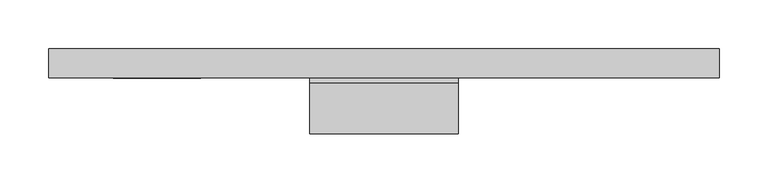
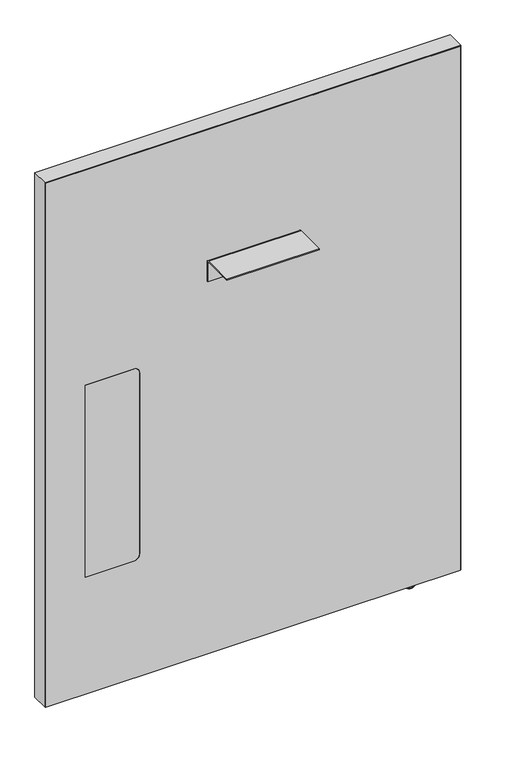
"""IFC4 building model written with IfcOpenShell, lengths in millimetres: furniture geometry, Steelcase - Answer Solution - Boundary Screen - Straight - Single Sided : 36H x 27W."""

from ifc_helpers import new_model, si_unit, point, frame, frame_2d, origin, place, context, project, spatial, polyline, circle_curve, ellipse_curve, trimmed, segment, composite_curve, outline, extrude, source, transform, mapped, element, save
from ifc_brep_helpers import plane_surface, cylinder_surface, revolved_surface, advanced_brep


def furniture_ad32c061(model_context):
    return source(origin(), model_context, "Body", "SolidModel", [
        extrude(outline(composite_curve([segment(polyline([(-86.8398151, 696.4680019), (-86.8398151, 698.5), (-34.9450855, 698.5)]), True, "CONTINUOUS"), segment(trimmed(circle_curve(frame_2d((-34.9450855, 693.2447477)), 5.2552523), [point((-34.9450855, 698.5))], [point((-29.6898332, 693.2447477))], False, "CARTESIAN"), True, "CONTINUOUS"), segment(polyline([(-29.6898332, 693.2447477), (-29.6898332, 660.4), (-31.7218162, 660.4), (-31.7218162, 693.0058743)]), True, "CONTINUOUS"), segment(trimmed(circle_curve(frame_2d((-35.1839438, 693.0058743)), 3.4621276), [point((-31.7218162, 693.0058743))], [point((-35.1839438, 696.4680019))], True, "CARTESIAN"), True, "CONTINUOUS"), segment(polyline([(-35.1839438, 696.4680019), (-86.8398151, 696.4680019)]), True, "CONTINUOUS")], self_intersect=False)), frame((-379.7808593, 0.0, 0.0), z_axis=(1.0, 0.0, 0.0), x_axis=(0.0, 1.0, 0.0)), (0.0, 0.0, 1.0), 152.4000969),
        advanced_brep(
        [(-37.8713512, -23.7588726, 9.9059849), (-37.8713512, -5.9309607, 9.9059849), (-37.8713512, -14.8449166, 9.9059849), (-37.8713512, -23.7588726, 2.9673238), (-37.8713512, -5.9309607, 2.9673238), (-37.8713512, -22.7915354, 2.9673238), (-37.8713512, -6.8982978, 2.9673238), (-37.8713512, -22.7915354, 1.6569081), (-37.8713512, -6.8982978, 1.6569081), (-37.8713512, -21.1346274, 0.0), (-37.8713512, -8.5552059, 0.0), (-37.8713512, -14.8449166, 0.0)],
        [
            (0, 1, circle_curve(frame((-37.8713512, -14.8449166, 9.9059849), z_axis=(0.0, 0.0, 1.0), x_axis=(0.0, 1.0, 0.0)), 8.913956)),
            (1, 2),
            (2, 0),
            (1, 0, circle_curve(frame((-37.8713512, -14.8449166, 9.9059849), z_axis=(0.0, 0.0, 1.0), x_axis=(0.0, 1.0, 0.0)), 8.913956)),
            (3, 4, circle_curve(frame((-37.8713512, -14.8449166, 2.9673238), z_axis=(0.0, 0.0, 1.0), x_axis=(0.0, 1.0, 0.0)), 8.913956)),
            (4, 1),
            (0, 3),
            (4, 3, circle_curve(frame((-37.8713512, -14.8449166, 2.9673238), z_axis=(0.0, 0.0, 1.0), x_axis=(0.0, 1.0, 0.0)), 8.913956)),
            (5, 6, circle_curve(frame((-37.8713512, -14.8449166, 2.9673238), z_axis=(0.0, 0.0, 1.0), x_axis=(0.0, 1.0, 0.0)), 7.9466188)),
            (6, 4),
            (3, 5),
            (6, 5, circle_curve(frame((-37.8713512, -14.8449166, 2.9673238), z_axis=(0.0, 0.0, 1.0), x_axis=(0.0, 1.0, 0.0)), 7.9466188)),
            (7, 8, circle_curve(frame((-37.8713512, -14.8449166, 1.6569081), z_axis=(0.0, 0.0, 1.0), x_axis=(0.0, 1.0, 0.0)), 7.9466188)),
            (8, 6),
            (5, 7),
            (8, 7, circle_curve(frame((-37.8713512, -14.8449166, 1.6569081), z_axis=(0.0, 0.0, 1.0), x_axis=(0.0, 1.0, 0.0)), 7.9466188)),
            (9, 10, circle_curve(frame((-37.8713512, -14.8449166, 0.0), z_axis=(0.0, 0.0, 1.0), x_axis=(0.0, 1.0, 0.0)), 6.2897107)),
            (10, 8, circle_curve(frame((-37.8713512, -8.5552059, 1.6569081), z_axis=(1.0, 0.0, 0.0), x_axis=(0.0, 1.0, 0.0)), 1.6569081)),
            (7, 9, circle_curve(frame((-37.8713512, -21.1346274, 1.6569081), z_axis=(1.0, 0.0, 0.0), x_axis=(0.0, -1.0, 0.0)), 1.6569081)),
            (10, 9, circle_curve(frame((-37.8713512, -14.8449166, 0.0), z_axis=(0.0, 0.0, 1.0), x_axis=(0.0, 1.0, 0.0)), 6.2897107)),
            (11, 10),
            (9, 11),
        ],
        [
            plane_surface(frame((-37.8713512, -14.8449166, 9.9059849), z_axis=(0.0, 0.0, 1.0), x_axis=(0.0, 1.0, 0.0))),
            cylinder_surface(frame((-37.8713512, -14.8449166, 9.9059849), z_axis=(0.0, 0.0, -1.0), x_axis=(0.0, 1.0, 0.0)), 8.913956),
            plane_surface(frame((-37.8713512, -14.8449166, 2.9673238), z_axis=(0.0, 0.0, -1.0), x_axis=(0.0, 1.0, 0.0))),
            cylinder_surface(frame((-37.8713512, -14.8449166, 9.9059849), z_axis=(0.0, 0.0, -1.0), x_axis=(0.0, 1.0, 0.0)), 7.9466188),
            revolved_surface(trimmed(ellipse_curve(frame((-37.8713512, -8.5552059, 1.6569081), z_axis=(-1.0, 0.0, 0.0), x_axis=(0.0, 1.0, 0.0)), 1.6569081, 1.6569081), [point((-37.8713512, -6.8982978, 1.6569081))], [point((-37.8713512, -8.5552059, 0.0))], True, "CARTESIAN"), (-37.8713512, -14.8449166, 9.9059849), (0.0, 0.0, -1.0)),
            plane_surface(frame((-37.8713512, -14.8449166, 0.0), z_axis=(0.0, 0.0, -1.0), x_axis=(0.0, 1.0, 0.0))),
        ],
        [
            (0, [[1, 2, 3]]),
            (0, [[4, -3, -2]]),
            (1, [[5, 6, -1, 7]]),
            (1, [[8, -7, -4, -6]]),
            (2, [[9, 10, -5, 11]]),
            (2, [[12, -11, -8, -10]]),
            (3, [[13, 14, -9, 15]]),
            (3, [[16, -15, -12, -14]]),
            (4, [[17, 18, -13, 19]]),
            (4, [[20, -19, -16, -18]]),
            (5, [[21, -17, 22]]),
            (5, [[-22, -20, -21]]),
        ],
    ),
        advanced_brep(
        [(38.2780168, 0.0, 924.342118), (38.2780168, 0.0, 9.9059849), (-645.4902221, 0.0, 9.9059849), (-645.4902221, 0.0, 924.342118), (38.2780168, -29.6898332, 924.342118), (-645.4902221, -29.6898332, 924.342118), (-645.4902221, -29.6898332, 9.9059849), (38.2780168, -29.6898332, 9.9059849), (-501.1463873, -29.6898332, 549.6162029), (-490.9863873, -29.6898332, 539.4562029), (-490.9863873, -29.6898332, 223.9362137), (-501.1463873, -29.6898332, 213.7762137), (-580.800285, -29.6898332, 213.7762137), (-580.800285, -29.6898332, 549.6162029), (-580.800285, -29.0550397, 549.6162029), (-501.1463873, -29.0550397, 549.6162029), (-580.800285, -29.0550397, 213.7762137), (-501.1463873, -29.0550397, 213.7762137), (-490.9863873, -29.0550397, 223.9362137), (-490.9863873, -29.0550397, 539.4562029)],
        [
            (0, 1),
            (1, 2),
            (2, 3),
            (3, 0),
            (4, 5),
            (5, 6),
            (6, 7),
            (7, 4),
            (8, 9, circle_curve(frame((-501.1463873, -29.6898332, 539.4562029), z_axis=(0.0, 1.0, 0.0), x_axis=(0.0, 0.0, 1.0)), 10.16)),
            (9, 10),
            (10, 11, circle_curve(frame((-501.1463873, -29.6898332, 223.9362137), z_axis=(0.0, 1.0, 0.0), x_axis=(0.0, 0.0, 1.0)), 10.16)),
            (11, 12),
            (12, 13),
            (13, 8),
            (0, 4),
            (7, 1),
            (6, 2),
            (5, 3),
            (13, 14),
            (14, 15),
            (15, 8),
            (12, 16),
            (16, 14),
            (11, 17),
            (17, 16),
            (10, 18),
            (18, 17, circle_curve(frame((-501.1463873, -29.0550397, 223.9362137), z_axis=(0.0, 1.0, 0.0), x_axis=(0.0, 0.0, 1.0)), 10.16)),
            (9, 19),
            (19, 18),
            (15, 19, circle_curve(frame((-501.1463873, -29.0550397, 539.4562029), z_axis=(0.0, 1.0, 0.0), x_axis=(0.0, 0.0, 1.0)), 10.16)),
        ],
        [
            plane_surface(frame((38.2780168, 0.0, 924.342118), z_axis=(0.0, 1.0, 0.0), x_axis=(0.0, 0.0, -1.0))),
            plane_surface(frame((38.2780168, -29.6898332, 924.342118), z_axis=(0.0, -1.0, 0.0), x_axis=(0.0, 0.0, 1.0))),
            plane_surface(frame((38.2780168, 0.0, 924.342118), z_axis=(1.0, 0.0, 0.0), x_axis=(0.0, -1.0, 0.0))),
            plane_surface(frame((38.2780168, 0.0, 9.9059849), z_axis=(0.0, 0.0, -1.0), x_axis=(0.0, -1.0, 0.0))),
            plane_surface(frame((-645.4902221, 0.0, 9.9059849), z_axis=(-1.0, 0.0, 0.0), x_axis=(0.0, -1.0, 0.0))),
            plane_surface(frame((-645.4902221, 0.0, 924.342118), z_axis=(0.0, 0.0, 1.0), x_axis=(0.0, -1.0, 0.0))),
            plane_surface(frame((-501.1463873, 0.0, 549.6162029), z_axis=(0.0, 0.0, -1.0), x_axis=(0.0, -1.0, 0.0))),
            plane_surface(frame((-580.800285, 0.0, 549.6162029), z_axis=(1.0, 0.0, 0.0), x_axis=(0.0, -1.0, 0.0))),
            plane_surface(frame((-580.800285, 0.0, 213.7762137), z_axis=(0.0, 0.0, 1.0), x_axis=(0.0, -1.0, 0.0))),
            revolved_surface(polyline([(-501.1463873, -29.6898332, 234.0962137), (-501.1463873, -29.0550397, 234.0962137)]), (-501.1463873, -29.6898332, 223.9362137), (0.0, -1.0, 0.0)),
            plane_surface(frame((-490.9863873, 0.0, 223.9362137), z_axis=(-1.0, 0.0, 0.0), x_axis=(0.0, -1.0, 0.0))),
            revolved_surface(polyline([(-501.1463873, -29.6898332, 549.6162029), (-501.1463873, -29.0550397, 549.6162029)]), (-501.1463873, -29.6898332, 539.4562029), (0.0, -1.0, 0.0)),
            plane_surface(frame((-490.9863873, -29.0550397, 629.172953), z_axis=(0.0, -1.0, 0.0), x_axis=(0.0, 0.0, 1.0))),
        ],
        [
            (0, [[1, 2, 3, 4]]),
            (1, [[5, 6, 7, 8], [9, 10, 11, 12, 13, 14]]),
            (2, [[-1, 15, -8, 16]]),
            (3, [[-2, -16, -7, 17]]),
            (4, [[-3, -17, -6, 18]]),
            (5, [[-4, -18, -5, -15]]),
            (6, [[-14, 19, 20, 21]]),
            (7, [[-13, 22, 23, -19]]),
            (8, [[-12, 24, 25, -22]]),
            (9, [[-11, 26, 27, -24]]),
            (10, [[-10, 28, 29, -26]]),
            (11, [[-9, -21, 30, -28]]),
            (12, [[-20, -23, -25, -27, -29, -30]]),
        ],
    ),
        extrude(outline(composite_curve([segment(polyline([(549.6162029, -501.1463873), (549.6162029, -580.800285), (213.7762137, -580.800285), (213.7762137, -501.1463873)]), True, "CONTINUOUS"), segment(trimmed(circle_curve(frame_2d((223.9362137, -501.1463873)), 10.16), [point((213.7762137, -501.1463873))], [point((223.9362137, -490.9863873))], False, "CARTESIAN"), True, "CONTINUOUS"), segment(polyline([(223.9362137, -490.9863873), (539.4562029, -490.9863873)]), True, "CONTINUOUS"), segment(trimmed(circle_curve(frame_2d((539.4562029, -501.1463873)), 10.16), [point((539.4562029, -490.9863873))], [point((549.6162029, -501.1463873))], False, "CARTESIAN"), True, "CONTINUOUS")], self_intersect=False)), frame((0.0, -29.6898332, 0.0), z_axis=(0.0, 1.0, 0.0), x_axis=(0.0, 0.0, 1.0)), (0.0, 0.0, 1.0), 0.6347935),
        extrude(outline(polyline([(925.322, 39.3191891), (925.322, -646.4808109), (9.9059849, -646.4808109), (9.9059849, -645.4902221), (924.342118, -645.4902221), (924.342118, 38.2780168), (9.9059849, 38.2780168), (9.9059849, 39.3191891), (925.322, 39.3191891)])), frame((0.0, -29.6898332, 0.0), z_axis=(0.0, 1.0, 0.0), x_axis=(0.0, 0.0, 1.0)), (0.0, 0.0, 1.0), 29.6898332),
    ])


if __name__ == "__main__":
    model = new_model("IFC4")
    model_context = context("Model", 3, world=origin())
    ifc_project = project(units=[si_unit("LENGTHUNIT", "METRE", prefix="MILLI")], contexts=[model_context])
    site = spatial("IfcSite", under=ifc_project)
    building = spatial("IfcBuilding", under=site)
    placement = place(None, origin())
    furniture_shape = furniture_ad32c061(model_context)
    element("IfcFurniture", 1, ObjectType="Steelcase - Answer Solution - Boundary Screen - Straight - Single Sided : 36H x 27W", at=placement, inside=building, context=model_context, shape_type="MappedRepresentation", body=[
        mapped(furniture_shape, transform((0.0, 0.0, 0.0), x_axis=(1.0, 0.0, 0.0), y_axis=(0.0, 1.0, 0.0), z_axis=(0.0, 0.0, 1.0))),
    ])
    save(model, "model.ifc")
